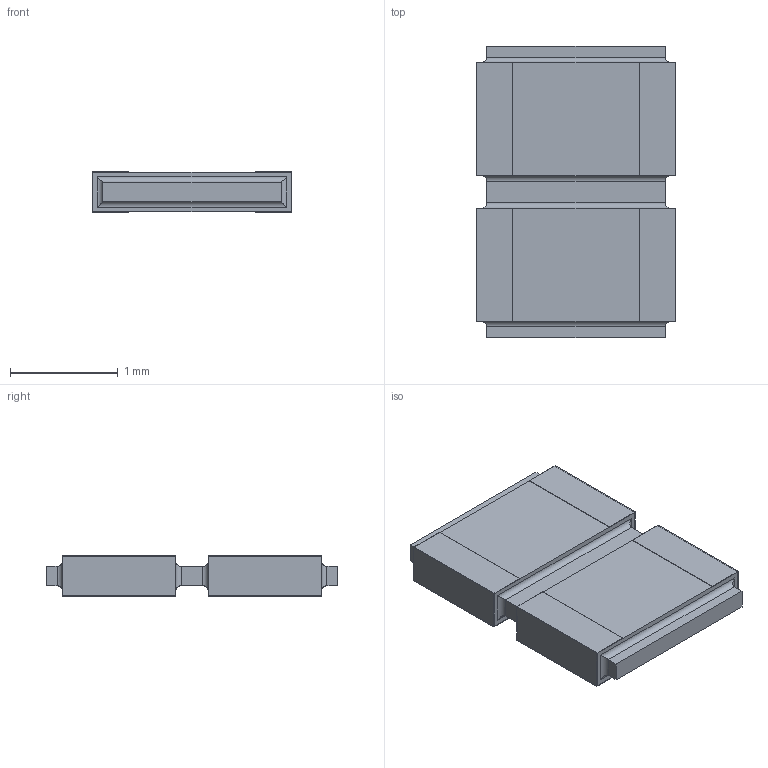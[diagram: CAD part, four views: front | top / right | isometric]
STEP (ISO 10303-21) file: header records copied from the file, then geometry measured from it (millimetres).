
FILE_DESCRIPTION(/* description */ (''),/* implementation_level */ '2;1');
FILE_NAME(/* name */ 'S:\DOCUMENT\AUTOCAD\3D_Modèles\10_3D-pour-VISHAY-COM\PRA\PRAHR135I2_B.stp',/* time_stamp */ '2018-02-02T10:49:09+01:00',/* author */ ('dparmentier'),/* organization */ ('unknown'),/* preprocessor_version */ 'ST-DEVELOPER v17',/* originating_system */ 'Autodesk Inventor 2018',/* authorisation */ '');
FILE_SCHEMA (('AUTOMOTIVE_DESIGN { 1 0 10303 214 3 1 1 }'));
Length unit declared in the file: millimetre
Products named in the file (1): PRAHR135I2_B
Bounding box: 1.85 x 2.7 x 0.38 mm (x, y, z)
Volume: 1.6 mm3; surface area: 22.2 mm2
Topology: 5 solids, 5 shells, 82 faces, 188 edges, 120 vertices
Faces by surface type: plane 66, cylinder 16
Entity records: 2309 total; most frequent: CARTESIAN_POINT 391, ORIENTED_EDGE 376, DIRECTION 370, EDGE_CURVE 188, LINE 172, VECTOR 172, VERTEX_POINT 120, AXIS2_PLACEMENT_3D 99
